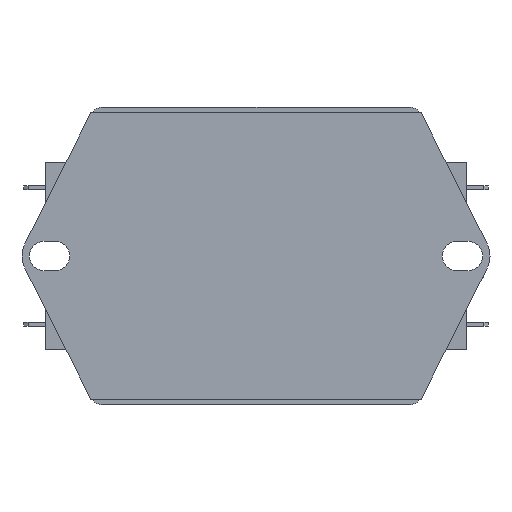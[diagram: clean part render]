
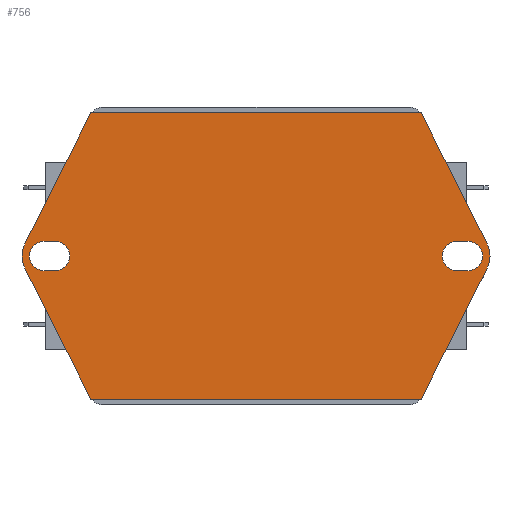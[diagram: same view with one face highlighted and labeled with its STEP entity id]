
A CAD part, front view. The second image highlights one B-rep face of the part: STEP entity #756.
In plain terms, the highlighted planar face has unit normal (0, -1, 0).
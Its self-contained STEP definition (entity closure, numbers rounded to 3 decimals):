
#15 = DIRECTION ( 'NONE',  ( 1., 0., 0. ) ) ;
#25 = CARTESIAN_POINT ( 'NONE',  ( -68.5, -1.2, -29.65 ) ) ;
#35 = LINE ( 'NONE', #25, #2206 ) ;
#63 = LINE ( 'NONE', #2523, #229 ) ;
#79 = CARTESIAN_POINT ( 'NONE',  ( -71.971, -1.2, -24.774 ) ) ;
#112 = ORIENTED_EDGE ( 'NONE', *, *, #655, .F. ) ;
#124 = VECTOR ( 'NONE', #2671, 1000. ) ;
#125 = DIRECTION ( 'NONE',  ( 0., 0., 1. ) ) ;
#128 = EDGE_CURVE ( 'NONE', #1166, #1552, #2521, .T. ) ;
#145 = CARTESIAN_POINT ( 'NONE',  ( 8.5, -1.2, -29.65 ) ) ;
#159 = EDGE_LOOP ( 'NONE', ( #2193, #2617, #112, #1278 ) ) ;
#167 = CARTESIAN_POINT ( 'NONE',  ( 6.5, -1.2, -29.65 ) ) ;
#180 = CIRCLE ( 'NONE', #523, 4.95 ) ;
#206 = CARTESIAN_POINT ( 'NONE',  ( 11.971, -1.2, -24.774 ) ) ;
#213 = ORIENTED_EDGE ( 'NONE', *, *, #1484, .F. ) ;
#229 = VECTOR ( 'NONE', #1452, 1000. ) ;
#237 = LINE ( 'NONE', #1948, #1247 ) ;
#264 = CARTESIAN_POINT ( 'NONE',  ( 0., -1.2, -53. ) ) ;
#271 = VERTEX_POINT ( 'NONE', #970 ) ;
#304 = VECTOR ( 'NONE', #1114, 1000. ) ;
#325 = AXIS2_PLACEMENT_3D ( 'NONE', #590, #954, #356 ) ;
#350 = DIRECTION ( 'NONE',  ( 1., 0., 0. ) ) ;
#352 = ORIENTED_EDGE ( 'NONE', *, *, #1457, .T. ) ;
#356 = DIRECTION ( 'NONE',  ( 0., 0., 1. ) ) ;
#377 = PLANE ( 'NONE',  #325 ) ;
#392 = VECTOR ( 'NONE', #2025, 1000. ) ;
#407 = DIRECTION ( 'NONE',  ( 0., 0., -1. ) ) ;
#434 = LINE ( 'NONE', #1348, #304 ) ;
#468 = CARTESIAN_POINT ( 'NONE',  ( 6.5, -1.2, -27. ) ) ;
#478 = VERTEX_POINT ( 'NONE', #2271 ) ;
#479 = FACE_BOUND ( 'NONE', #159, .T. ) ;
#523 = AXIS2_PLACEMENT_3D ( 'NONE', #596, #2066, #2298 ) ;
#530 = EDGE_CURVE ( 'NONE', #2247, #1596, #1831, .T. ) ;
#532 = LINE ( 'NONE', #145, #2445 ) ;
#554 = ORIENTED_EDGE ( 'NONE', *, *, #842, .F. ) ;
#565 = CARTESIAN_POINT ( 'NONE',  ( -68.5, -1.2, -24.35 ) ) ;
#567 = ORIENTED_EDGE ( 'NONE', *, *, #2624, .T. ) ;
#590 = CARTESIAN_POINT ( 'NONE',  ( 7.55, -1.2, -27. ) ) ;
#596 = CARTESIAN_POINT ( 'NONE',  ( -67.55, -1.2, -27. ) ) ;
#614 = DIRECTION ( 'NONE',  ( 0., -1., 0. ) ) ;
#643 = DIRECTION ( 'NONE',  ( 0., 0., 1. ) ) ;
#655 = EDGE_CURVE ( 'NONE', #2574, #1557, #1729, .T. ) ;
#684 = DIRECTION ( 'NONE',  ( 0.45, 0., 0.893 ) ) ;
#685 = CARTESIAN_POINT ( 'NONE',  ( 7.55, -1.2, -27. ) ) ;
#701 = EDGE_CURVE ( 'NONE', #271, #1166, #2183, .T. ) ;
#717 = VERTEX_POINT ( 'NONE', #167 ) ;
#721 = EDGE_CURVE ( 'NONE', #2042, #271, #964, .T. ) ;
#756 = ADVANCED_FACE ( 'NONE', ( #479, #895, #2593 ), #377, .F. ) ;
#772 = EDGE_LOOP ( 'NONE', ( #1709, #213, #554, #1059 ) ) ;
#829 = AXIS2_PLACEMENT_3D ( 'NONE', #1025, #614, #407 ) ;
#842 = EDGE_CURVE ( 'NONE', #2180, #1365, #2268, .T. ) ;
#887 = AXIS2_PLACEMENT_3D ( 'NONE', #468, #1736, #2333 ) ;
#895 = FACE_OUTER_BOUND ( 'NONE', #1599, .T. ) ;
#954 = DIRECTION ( 'NONE',  ( 0., 1., 0. ) ) ;
#964 = LINE ( 'NONE', #2694, #124 ) ;
#970 = CARTESIAN_POINT ( 'NONE',  ( 0., -1.2, -1. ) ) ;
#979 = CIRCLE ( 'NONE', #2599, 4.95 ) ;
#1001 = EDGE_CURVE ( 'NONE', #1570, #1475, #63, .T. ) ;
#1025 = CARTESIAN_POINT ( 'NONE',  ( -68.5, -1.2, -27. ) ) ;
#1059 = ORIENTED_EDGE ( 'NONE', *, *, #1875, .F. ) ;
#1062 = CARTESIAN_POINT ( 'NONE',  ( -71.971, -1.2, -24.774 ) ) ;
#1112 = EDGE_CURVE ( 'NONE', #1596, #2574, #35, .T. ) ;
#1114 = DIRECTION ( 'NONE',  ( 0.45, 0., -0.893 ) ) ;
#1153 = AXIS2_PLACEMENT_3D ( 'NONE', #1205, #1370, #125 ) ;
#1166 = VERTEX_POINT ( 'NONE', #2112 ) ;
#1168 = CARTESIAN_POINT ( 'NONE',  ( -60., -1.2, -1. ) ) ;
#1205 = CARTESIAN_POINT ( 'NONE',  ( 8.5, -1.2, -27. ) ) ;
#1247 = VECTOR ( 'NONE', #2577, 1000. ) ;
#1251 = CARTESIAN_POINT ( 'NONE',  ( -68.5, -1.2, -24.35 ) ) ;
#1268 = CARTESIAN_POINT ( 'NONE',  ( 0., -1.2, -53. ) ) ;
#1277 = CARTESIAN_POINT ( 'NONE',  ( -60., -1.2, -53. ) ) ;
#1278 = ORIENTED_EDGE ( 'NONE', *, *, #1112, .F. ) ;
#1341 = CIRCLE ( 'NONE', #887, 2.65 ) ;
#1348 = CARTESIAN_POINT ( 'NONE',  ( -60., -1.2, -53. ) ) ;
#1356 = ORIENTED_EDGE ( 'NONE', *, *, #721, .T. ) ;
#1365 = VERTEX_POINT ( 'NONE', #2141 ) ;
#1370 = DIRECTION ( 'NONE',  ( 0., -1., 0. ) ) ;
#1389 = CARTESIAN_POINT ( 'NONE',  ( 8.5, -1.2, -29.65 ) ) ;
#1414 = EDGE_CURVE ( 'NONE', #1557, #2247, #1979, .T. ) ;
#1452 = DIRECTION ( 'NONE',  ( 1., 0., 0. ) ) ;
#1457 = EDGE_CURVE ( 'NONE', #478, #2042, #979, .T. ) ;
#1475 = VERTEX_POINT ( 'NONE', #1268 ) ;
#1483 = DIRECTION ( 'NONE',  ( 0., -1., 0. ) ) ;
#1484 = EDGE_CURVE ( 'NONE', #1365, #2646, #237, .T. ) ;
#1517 = EDGE_CURVE ( 'NONE', #2646, #717, #1341, .T. ) ;
#1552 = VERTEX_POINT ( 'NONE', #1062 ) ;
#1557 = VERTEX_POINT ( 'NONE', #1917 ) ;
#1570 = VERTEX_POINT ( 'NONE', #1277 ) ;
#1596 = VERTEX_POINT ( 'NONE', #2419 ) ;
#1599 = EDGE_LOOP ( 'NONE', ( #352, #1356, #1961, #1706, #2490, #1634, #1866, #567 ) ) ;
#1634 = ORIENTED_EDGE ( 'NONE', *, *, #1674, .T. ) ;
#1647 = VECTOR ( 'NONE', #684, 1000. ) ;
#1674 = EDGE_CURVE ( 'NONE', #1922, #1570, #434, .T. ) ;
#1706 = ORIENTED_EDGE ( 'NONE', *, *, #128, .T. ) ;
#1709 = ORIENTED_EDGE ( 'NONE', *, *, #1517, .F. ) ;
#1729 = CIRCLE ( 'NONE', #2673, 2.65 ) ;
#1736 = DIRECTION ( 'NONE',  ( 0., -1., 0. ) ) ;
#1752 = DIRECTION ( 'NONE',  ( -0.45, 0., -0.893 ) ) ;
#1773 = LINE ( 'NONE', #264, #1647 ) ;
#1831 = CIRCLE ( 'NONE', #829, 2.65 ) ;
#1845 = VECTOR ( 'NONE', #2357, 1000. ) ;
#1857 = CARTESIAN_POINT ( 'NONE',  ( -71.971, -1.2, -29.226 ) ) ;
#1866 = ORIENTED_EDGE ( 'NONE', *, *, #1001, .T. ) ;
#1875 = EDGE_CURVE ( 'NONE', #717, #2180, #532, .T. ) ;
#1917 = CARTESIAN_POINT ( 'NONE',  ( -66.5, -1.2, -24.35 ) ) ;
#1922 = VERTEX_POINT ( 'NONE', #1857 ) ;
#1948 = CARTESIAN_POINT ( 'NONE',  ( 8.5, -1.2, -24.35 ) ) ;
#1950 = VECTOR ( 'NONE', #1752, 1000. ) ;
#1961 = ORIENTED_EDGE ( 'NONE', *, *, #701, .T. ) ;
#1979 = LINE ( 'NONE', #1251, #1845 ) ;
#2025 = DIRECTION ( 'NONE',  ( -1., 0., 0. ) ) ;
#2042 = VERTEX_POINT ( 'NONE', #206 ) ;
#2066 = DIRECTION ( 'NONE',  ( 0., -1., 0. ) ) ;
#2104 = DIRECTION ( 'NONE',  ( 0., -1., 0. ) ) ;
#2112 = CARTESIAN_POINT ( 'NONE',  ( -60., -1.2, -1. ) ) ;
#2141 = CARTESIAN_POINT ( 'NONE',  ( 8.5, -1.2, -24.35 ) ) ;
#2144 = CARTESIAN_POINT ( 'NONE',  ( -66.5, -1.2, -29.65 ) ) ;
#2180 = VERTEX_POINT ( 'NONE', #1389 ) ;
#2183 = LINE ( 'NONE', #1168, #392 ) ;
#2193 = ORIENTED_EDGE ( 'NONE', *, *, #530, .F. ) ;
#2206 = VECTOR ( 'NONE', #15, 1000. ) ;
#2247 = VERTEX_POINT ( 'NONE', #565 ) ;
#2268 = CIRCLE ( 'NONE', #1153, 2.65 ) ;
#2271 = CARTESIAN_POINT ( 'NONE',  ( 11.971, -1.2, -29.226 ) ) ;
#2298 = DIRECTION ( 'NONE',  ( 0., 0., -1. ) ) ;
#2333 = DIRECTION ( 'NONE',  ( 0., 0., -1. ) ) ;
#2349 = DIRECTION ( 'NONE',  ( 0., 0., 1. ) ) ;
#2357 = DIRECTION ( 'NONE',  ( -1., 0., 0. ) ) ;
#2366 = EDGE_CURVE ( 'NONE', #1552, #1922, #180, .T. ) ;
#2419 = CARTESIAN_POINT ( 'NONE',  ( -68.5, -1.2, -29.65 ) ) ;
#2445 = VECTOR ( 'NONE', #350, 1000. ) ;
#2490 = ORIENTED_EDGE ( 'NONE', *, *, #2366, .T. ) ;
#2521 = LINE ( 'NONE', #79, #1950 ) ;
#2523 = CARTESIAN_POINT ( 'NONE',  ( 0., -1.2, -53. ) ) ;
#2526 = CARTESIAN_POINT ( 'NONE',  ( -66.5, -1.2, -27. ) ) ;
#2566 = CARTESIAN_POINT ( 'NONE',  ( 6.5, -1.2, -24.35 ) ) ;
#2574 = VERTEX_POINT ( 'NONE', #2144 ) ;
#2577 = DIRECTION ( 'NONE',  ( -1., 0., 0. ) ) ;
#2593 = FACE_BOUND ( 'NONE', #772, .T. ) ;
#2599 = AXIS2_PLACEMENT_3D ( 'NONE', #685, #1483, #2349 ) ;
#2617 = ORIENTED_EDGE ( 'NONE', *, *, #1414, .F. ) ;
#2624 = EDGE_CURVE ( 'NONE', #1475, #478, #1773, .T. ) ;
#2646 = VERTEX_POINT ( 'NONE', #2566 ) ;
#2671 = DIRECTION ( 'NONE',  ( -0.45, 0., 0.893 ) ) ;
#2673 = AXIS2_PLACEMENT_3D ( 'NONE', #2526, #2104, #643 ) ;
#2694 = CARTESIAN_POINT ( 'NONE',  ( 11.971, -1.2, -24.774 ) ) ;
